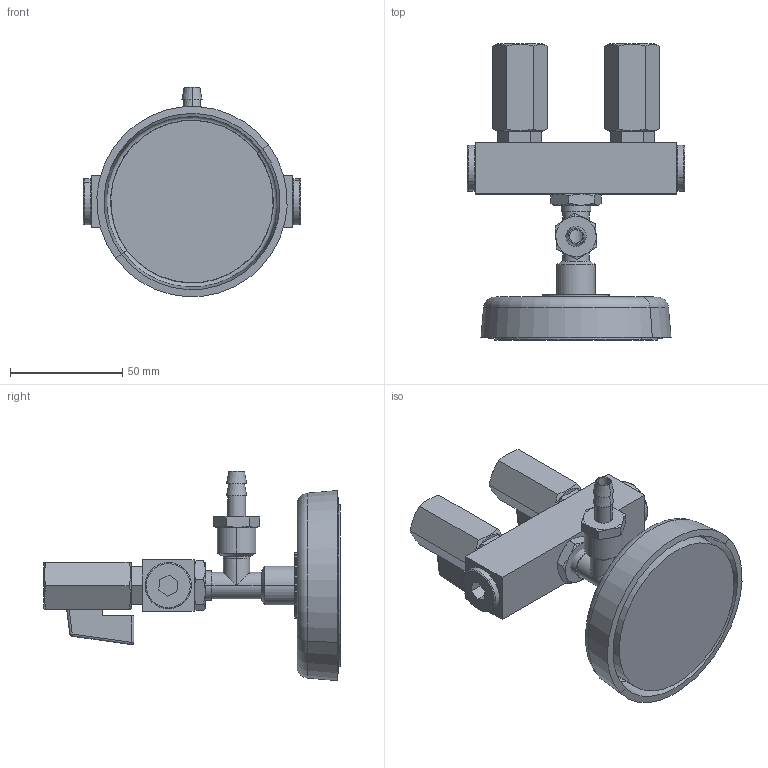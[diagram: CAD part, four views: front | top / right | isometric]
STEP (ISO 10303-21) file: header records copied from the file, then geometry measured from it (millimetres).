
FILE_DESCRIPTION (( 'STEP AP203' ), '1' );
FILE_NAME ('SILVENT_2222_STEP.STEP', '2019-11-11T06:34:22', ( '' ), ( '' ), 'SwSTEP 2.0', 'SolidWorks 2016', '' );
FILE_SCHEMA (( 'CONFIG_CONTROL_DESIGN' ));
Length unit declared in the file: millimetre
Products named in the file (22): 90000000324_RM3814; Magnet liten; T-r顤_A13_14; Profil 302; Plugg 300; 90000000287_KV14; 90000000290_nippel14_14; 90000000289_nippel_14-9_slang; SILVENT_2222_STEP; Bricka 29,7X1
Assembly tree (12 placements, depth 2):
  90000000324_RM3814
  T-r顤_A13_14
  Magnet liten
  Profil 302
  Plugg 300
Bounding box: 97 x 132.2 x 93.43 mm (x, y, z)
Volume: 173971.8 mm3; surface area: 65027.3 mm2
Topology: 12 solids, 12 shells, 308 faces, 680 edges, 418 vertices
Faces by surface type: plane 118, cylinder 96, cone 60, torus 20, sphere 14
Entity records: 8860 total; most frequent: CARTESIAN_POINT 1713, DIRECTION 1148, ORIENTED_EDGE 998, EDGE_CURVE 499, AXIS2_PLACEMENT_3D 479, VERTEX_POINT 306, EDGE_LOOP 271, CIRCLE 233
